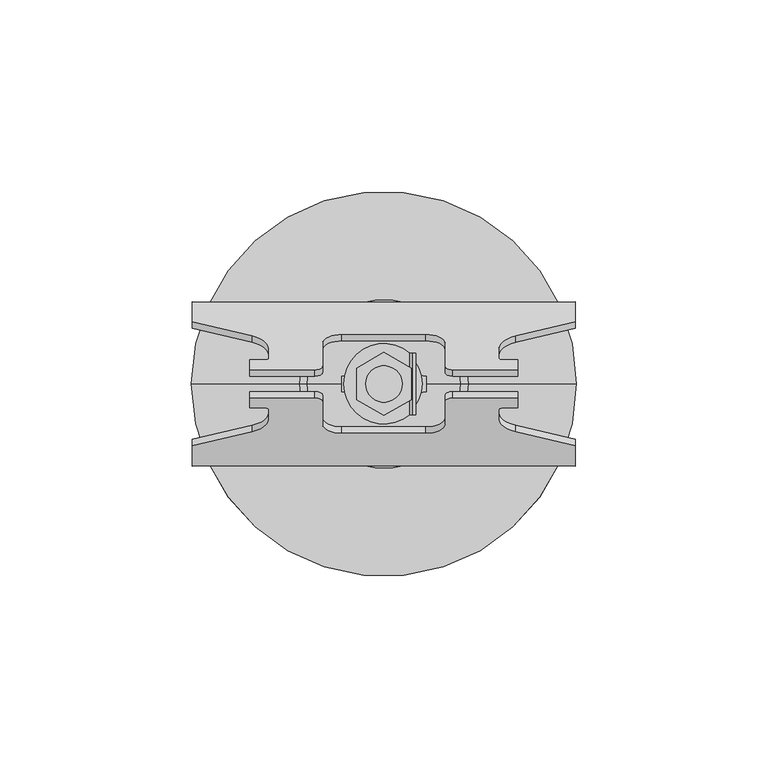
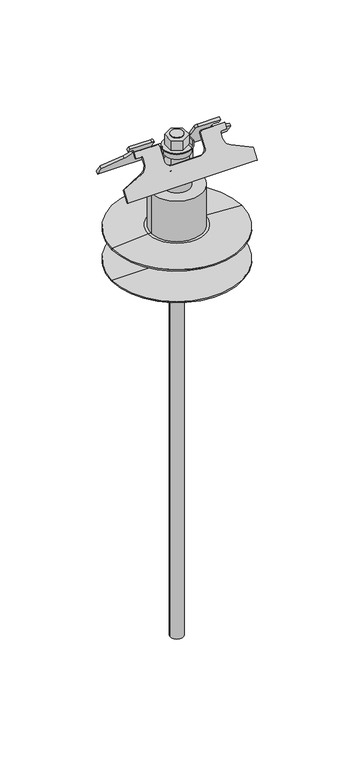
"""IFC4 building model written with IfcOpenShell, lengths in millimetres: proxy geometry, Kwiktrak Track Bracket (Bracket & Threaded Rod & Ceiling Plate) - ARJO - Revit2017 - REV0 : AH-Kwiktrak track bracket."""

from ifc_helpers import new_model, si_unit, point, frame, frame_2d, origin, origin_with_axes, origin_2d, place, context, project, spatial, polyline, circle_curve, ellipse_curve, trimmed, segment, composite_curve, outline, extrude, source, transform, mapped, element, save
from ifc_brep_helpers import plane_surface, cylinder_surface, revolved_surface, extruded_surface, advanced_brep


def specialty_equipment_32bf2d77(model_context):
    return source(origin(), model_context, "Body", "SolidModel", [
        extrude(outline(composite_curve([segment(trimmed(circle_curve(origin_2d(), 8.382), [point((-7.2434355, 4.2178864))], [point((7.2434355, 4.2178864))], False, "CARTESIAN"), True, "CONTINUOUS"), segment(trimmed(circle_curve(frame_2d((11.0457639, 6.432)), 4.4), [point((7.2434355, 4.2178864))], [point((11.0457639, 2.032))], True, "CARTESIAN"), True, "CONTINUOUS"), segment(polyline([(11.0457639, 2.032), (11.0457639, -2.032)]), True, "CONTINUOUS"), segment(trimmed(circle_curve(frame_2d((11.0457639, -6.432)), 4.4), [point((11.0457639, -2.032))], [point((7.2434355, -4.2178864))], True, "CARTESIAN"), True, "CONTINUOUS"), segment(trimmed(circle_curve(origin_2d(), 8.382), [point((7.2434355, -4.2178864))], [point((-7.2434355, -4.2178864))], False, "CARTESIAN"), True, "CONTINUOUS"), segment(trimmed(circle_curve(frame_2d((-11.0457639, -6.432)), 4.4), [point((-7.2434355, -4.2178864))], [point((-11.0457639, -2.032))], True, "CARTESIAN"), True, "CONTINUOUS"), segment(polyline([(-11.0457639, -2.032), (-11.0457639, 2.032)]), True, "CONTINUOUS"), segment(trimmed(circle_curve(frame_2d((-11.0457639, 6.432)), 4.4), [point((-11.0457639, 2.032))], [point((-7.2434355, 4.2178864))], True, "CARTESIAN"), True, "CONTINUOUS")], self_intersect=False)), frame((0.0, 0.0, 52.6432413), z_axis=(0.0, 0.0, 1.0), x_axis=(1.0, 0.0, 0.0)), (0.0, 0.0, 1.0), 10.7557441),
        advanced_brep(
        [(-10.0, 0.0, 41.8115), (10.0, 0.0, 41.8115), (10.0, 0.0, 35.8632413), (-10.0, 0.0, 35.8632413), (-8.0161454, 0.0, 42.3315717), (8.0161454, 0.0, 42.3315717), (9.4977725, 0.0, 42.3315717), (-9.4977725, 0.0, 42.3315717), (-7.5, 0.0, 52.6432413), (7.5, 0.0, 52.6432413), (7.5, 0.0, 42.9176284), (-7.5, 0.0, 42.9176284), (0.0, 0.0, 52.6432413), (0.0, 0.0, 35.8632413)],
        [
            (0, 1, circle_curve(frame((0.0, 0.0, 41.8115), z_axis=(0.0, 0.0, -1.0), x_axis=(1.0, 0.0, 0.0)), 10.0)),
            (1, 2),
            (2, 3, circle_curve(frame((0.0, 0.0, 35.8632413), z_axis=(0.0, 0.0, 1.0), x_axis=(1.0, 0.0, 0.0)), 10.0)),
            (3, 0),
            (1, 0, circle_curve(frame((0.0, 0.0, 41.8115), z_axis=(0.0, 0.0, -1.0), x_axis=(1.0, 0.0, 0.0)), 10.0)),
            (3, 2, circle_curve(frame((0.0, 0.0, 35.8632413), z_axis=(0.0, 0.0, 1.0), x_axis=(1.0, 0.0, 0.0)), 10.0)),
            (4, 5, circle_curve(frame((0.0, 0.0, 42.3315717), z_axis=(0.0, 0.0, -1.0), x_axis=(1.0, 0.0, 0.0)), 8.0161454)),
            (5, 6),
            (6, 7, circle_curve(frame((0.0, 0.0, 42.3315717), z_axis=(0.0, 0.0, 1.0), x_axis=(1.0, 0.0, 0.0)), 9.4977725)),
            (7, 4),
            (5, 4, circle_curve(frame((0.0, 0.0, 42.3315717), z_axis=(0.0, 0.0, -1.0), x_axis=(1.0, 0.0, 0.0)), 8.0161454)),
            (7, 6, circle_curve(frame((0.0, 0.0, 42.3315717), z_axis=(0.0, 0.0, 1.0), x_axis=(1.0, 0.0, 0.0)), 9.4977725)),
            (8, 9, circle_curve(frame((0.0, 0.0, 52.6432413), z_axis=(0.0, 0.0, -1.0), x_axis=(1.0, 0.0, 0.0)), 7.5)),
            (9, 10),
            (10, 11, circle_curve(frame((0.0, 0.0, 42.9176284), z_axis=(0.0, 0.0, 1.0), x_axis=(1.0, 0.0, 0.0)), 7.5)),
            (11, 8),
            (9, 8, circle_curve(frame((0.0, 0.0, 52.6432413), z_axis=(0.0, 0.0, -1.0), x_axis=(1.0, 0.0, 0.0)), 7.5)),
            (11, 10, circle_curve(frame((0.0, 0.0, 42.9176284), z_axis=(0.0, 0.0, 1.0), x_axis=(1.0, 0.0, 0.0)), 7.5)),
            (12, 9),
            (8, 12),
            (2, 13),
            (13, 3),
            (6, 1, circle_curve(frame((9.4796112, 0.0, 41.8115), z_axis=(0.0, 1.0, 0.0), x_axis=(1.0, 0.0, 0.0)), 0.5203888)),
            (0, 7, circle_curve(frame((-9.4796112, 0.0, 41.8115), z_axis=(0.0, 1.0, 0.0), x_axis=(-1.0, 0.0, 0.0)), 0.5203888)),
            (10, 5, circle_curve(frame((8.0346369, 0.0, 42.9176284), z_axis=(0.0, -1.0, 0.0), x_axis=(1.0, 0.0, 0.0)), 0.5346369)),
            (4, 11, circle_curve(frame((-8.0346369, 0.0, 42.9176284), z_axis=(0.0, -1.0, 0.0), x_axis=(-1.0, 0.0, 0.0)), 0.5346369)),
        ],
        [
            cylinder_surface(frame((0.0, 0.0, 1989.6192677), z_axis=(0.0, 0.0, 1.0), x_axis=(1.0, 0.0, 0.0)), 10.0),
            plane_surface(frame((0.0, 0.0, 42.3315717), z_axis=(0.0, 0.0, 1.0), x_axis=(1.0, 0.0, 0.0))),
            cylinder_surface(frame((0.0, 0.0, 1989.6192677), z_axis=(0.0, 0.0, 1.0), x_axis=(1.0, 0.0, 0.0)), 7.5),
            plane_surface(frame((0.0, 0.0, 52.6432413), z_axis=(0.0, 0.0, 1.0), x_axis=(1.0, 0.0, 0.0))),
            plane_surface(frame((0.0, 0.0, 35.8632413), z_axis=(0.0, 0.0, -1.0), x_axis=(1.0, 0.0, 0.0))),
            revolved_surface(trimmed(ellipse_curve(frame((9.4796112, 0.0, 41.8115), z_axis=(0.0, -1.0, 0.0), x_axis=(1.0, 0.0, 0.0)), 0.5203888, 0.5203888), [point((10.0, 0.0, 41.8115))], [point((9.4977725, 0.0, 42.3315717))], True, "CARTESIAN"), (0.0, 0.0, 1989.6192677), (0.0, 0.0, 1.0)),
            revolved_surface(trimmed(ellipse_curve(frame((8.0346369, 0.0, 42.9176284), z_axis=(0.0, 1.0, 0.0), x_axis=(1.0, 0.0, 0.0)), 0.5346369, 0.5346369), [point((8.0159784, 0.0, 42.3833171))], [point((7.5, 0.0, 42.9176284))], True, "CARTESIAN"), (0.0, 0.0, 1989.6192677), (0.0, 0.0, 1.0)),
        ],
        [
            (0, [[1, 2, 3, 4]]),
            (0, [[5, -4, 6, -2]]),
            (1, [[7, 8, 9, 10]]),
            (1, [[11, -10, 12, -8]]),
            (2, [[13, 14, 15, 16]]),
            (2, [[17, -16, 18, -14]]),
            (3, [[19, -13, 20]]),
            (3, [[-20, -17, -19]]),
            (4, [[-3, 21, 22]]),
            (4, [[-6, -22, -21]]),
            (5, [[-9, 23, -1, 24]]),
            (5, [[-12, -24, -5, -23]]),
            (6, [[-15, 25, -7, 26]]),
            (6, [[-18, -26, -11, -25]]),
        ],
    ),
        extrude(outline(composite_curve([segment(trimmed(circle_curve(frame_2d((69.2180114, 6.75)), 0.7447701), [point((69.2180114, 7.4947701))], [point((68.4732413, 6.75))], True, "CARTESIAN"), True, "CONTINUOUS"), segment(polyline([(68.4732413, 6.75), (67.6732413, 6.75)]), True, "CONTINUOUS"), segment(trimmed(circle_curve(frame_2d((69.2180114, 6.75)), 1.5447701), [point((67.6732413, 6.75))], [point((69.2180114, 8.2947701))], False, "CARTESIAN"), True, "CONTINUOUS"), segment(polyline([(69.2180114, 8.2947701), (73.9063719, 8.2947701), (73.9063719, 7.4947701), (69.2180114, 7.4947701)]), True, "CONTINUOUS")], self_intersect=False)), frame((0.0, -8.042854, 0.0), z_axis=(0.0, 1.0, 0.0), x_axis=(0.0, 0.0, 1.0)), (0.0, 0.0, 1.0), 16.0857079),
        extrude(outline(composite_curve([segment(trimmed(circle_curve(origin_2d(), 10.5), [point((6.75, -8.042854))], [point((6.75, 8.042854))], False, "CARTESIAN"), True, "CONTINUOUS"), segment(polyline([(6.75, 8.042854), (6.75, -8.042854)]), True, "CONTINUOUS")], self_intersect=False)), frame((0.0, 0.0, 67.6732413), z_axis=(0.0, 0.0, 1.0), x_axis=(1.0, 0.0, 0.0)), (0.0, 0.0, 1.0), 0.8),
        extrude(outline(composite_curve([segment(trimmed(circle_curve(origin_2d(), 10.0), [point((-10.0, 0.0))], [point((10.0, 0.0))], False, "CARTESIAN"), True, "CONTINUOUS"), segment(trimmed(circle_curve(origin_2d(), 10.0), [point((10.0, 0.0))], [point((-10.0, 0.0))], False, "CARTESIAN"), True, "CONTINUOUS")], self_intersect=False)), frame((0.0, 0.0, 63.3520872), z_axis=(0.0, 0.0, 1.0), x_axis=(1.0, 0.0, 0.0)), (0.0, 0.0, 1.0), 4.321154),
        advanced_brep(
        [(-30.0, 6.7435928, 72.2514851), (-31.0, 6.275563, 72.927406), (-35.0, 6.275563, 72.927406), (-35.0, 3.7095132, 76.6332526), (-18.0, 3.7095132, 76.6332526), (-16.0, 4.6455727, 75.2814109), (-16.0, 10.5656792, 66.7316914), (-11.0, 12.9058281, 63.3520872), (11.0, 12.9058281, 63.3520872), (16.0, 10.5656792, 66.7316914), (16.0, 4.6455727, 75.2814109), (18.0, 3.7095132, 76.6332526), (35.0, 3.7095132, 76.6332526), (35.0, 6.275563, 72.927406), (31.0, 6.275563, 72.927406), (30.0, 6.7435928, 72.2514851), (30.0, 9.1615899, 68.7594538), (34.4018702, 12.5057424, 63.9298843), (50.0, 16.1820364, 58.6206415), (50.0, 21.4664808, 50.9889346), (48.0, 21.3494734, 51.1579148), (-48.0, 21.3494734, 51.1579148), (-50.0, 21.4664808, 50.9889346), (-50.0, 16.1820364, 58.6206415), (-34.4018702, 12.5057424, 63.9298843), (-30.0, 9.1615899, 68.7594538), (-30.0, 5.0713515, 71.0935704), (-30.0, 7.4893486, 67.6015391), (-34.4018702, 10.8335011, 62.7719695), (-50.0, 14.5097951, 57.4627267), (-50.0, 19.7942395, 49.8310198), (-48.0, 19.6772321, 50.0), (48.0, 19.6772321, 50.0), (50.0, 19.7942395, 49.8310198), (50.0, 14.5097951, 57.4627267), (34.4018702, 10.8335011, 62.7719695), (30.0, 7.4893486, 67.6015391), (30.0, 5.0713515, 71.0935704), (31.0, 4.6033217, 71.7694912), (35.0, 4.6033217, 71.7694912), (35.0, 2.0372719, 75.4753378), (18.0, 2.0372719, 75.4753378), (16.0, 2.9733314, 74.1234961), (16.0, 8.8934379, 65.5737766), (11.0, 11.2335867, 62.1941725), (-11.0, 11.2335867, 62.1941725), (-16.0, 8.8934379, 65.5737766), (-16.0, 2.9733314, 74.1234961), (-18.0, 2.0372719, 75.4753378), (-35.0, 2.0372719, 75.4753378), (-35.0, 4.6033217, 71.7694912), (-31.0, 4.6033217, 71.7694912)],
        [
            (0, 1, ellipse_curve(frame((-31.0, 6.7435928, 72.2514851), z_axis=(0.0, -0.8221440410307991, -0.5692795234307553), x_axis=(-1.0, 0.0, 0.0)), 1.0, 0.822144)),
            (1, 2),
            (2, 3),
            (3, 4),
            (4, 5, ellipse_curve(frame((-18.0, 4.6455727, 75.2814109), z_axis=(0.0, 0.8221440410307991, 0.5692795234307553), x_axis=(1.0, 0.0, 0.0)), 2.0, 1.6442881)),
            (5, 6),
            (6, 7, ellipse_curve(frame((-11.0, 10.5656792, 66.7316914), z_axis=(0.0, -0.8221440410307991, -0.5692795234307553), x_axis=(1.0, 0.0, 0.0)), 5.0, 4.1107202)),
            (7, 8),
            (8, 9, ellipse_curve(frame((11.0, 10.5656792, 66.7316914), z_axis=(0.0, -0.8221440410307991, -0.5692795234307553), x_axis=(1.0, 0.0, 0.0)), 5.0, 4.1107202)),
            (9, 10),
            (10, 11, ellipse_curve(frame((18.0, 4.6455727, 75.2814109), z_axis=(0.0, 0.8221440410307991, 0.5692795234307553), x_axis=(1.0, 0.0, 0.0)), 2.0, 1.6442881)),
            (11, 12),
            (12, 13),
            (13, 14),
            (14, 15, ellipse_curve(frame((31.0, 6.7435928, 72.2514851), z_axis=(0.0, -0.8221440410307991, -0.5692795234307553), x_axis=(-1.0, 0.0, 0.0)), 1.0, 0.822144)),
            (15, 16),
            (16, 17, ellipse_curve(frame((38.0, 9.1615899, 68.7594538), z_axis=(0.0, -0.8221440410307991, -0.5692795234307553), x_axis=(-1.0, 0.0, 0.0)), 8.0, 6.5771523)),
            (17, 18),
            (18, 19),
            (19, 20),
            (20, 21),
            (21, 22),
            (22, 23),
            (23, 24),
            (24, 25, ellipse_curve(frame((-38.0, 9.1615899, 68.7594538), z_axis=(0.0, -0.8221440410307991, -0.5692795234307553), x_axis=(-1.0, 0.0, 0.0)), 8.0, 6.5771523)),
            (25, 0),
            (26, 27),
            (27, 28, ellipse_curve(frame((-38.0, 7.4893486, 67.6015391), z_axis=(0.0, 0.8221440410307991, 0.5692795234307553), x_axis=(-1.0, 0.0, 0.0)), 8.0, 6.5771523)),
            (28, 29),
            (29, 30),
            (30, 31),
            (31, 32),
            (32, 33),
            (33, 34),
            (34, 35),
            (35, 36, ellipse_curve(frame((38.0, 7.4893486, 67.6015391), z_axis=(0.0, 0.8221440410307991, 0.5692795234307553), x_axis=(-1.0, 0.0, 0.0)), 8.0, 6.5771523)),
            (36, 37),
            (37, 38, ellipse_curve(frame((31.0, 5.0713515, 71.0935704), z_axis=(0.0, 0.8221440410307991, 0.5692795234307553), x_axis=(-1.0, 0.0, 0.0)), 1.0, 0.822144)),
            (38, 39),
            (39, 40),
            (40, 41),
            (41, 42, ellipse_curve(frame((18.0, 2.9733314, 74.1234961), z_axis=(0.0, -0.8221440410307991, -0.5692795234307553), x_axis=(1.0, 0.0, 0.0)), 2.0, 1.6442881)),
            (42, 43),
            (43, 44, ellipse_curve(frame((11.0, 8.8934379, 65.5737766), z_axis=(0.0, 0.8221440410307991, 0.5692795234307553), x_axis=(1.0, 0.0, 0.0)), 5.0, 4.1107202)),
            (44, 45),
            (45, 46, ellipse_curve(frame((-11.0, 8.8934379, 65.5737766), z_axis=(0.0, 0.8221440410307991, 0.5692795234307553), x_axis=(1.0, 0.0, 0.0)), 5.0, 4.1107202)),
            (46, 47),
            (47, 48, ellipse_curve(frame((-18.0, 2.9733314, 74.1234961), z_axis=(0.0, -0.8221440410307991, -0.5692795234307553), x_axis=(1.0, 0.0, 0.0)), 2.0, 1.6442881)),
            (48, 49),
            (49, 50),
            (50, 51),
            (51, 26, ellipse_curve(frame((-31.0, 5.0713515, 71.0935704), z_axis=(0.0, 0.8221440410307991, 0.5692795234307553), x_axis=(-1.0, 0.0, 0.0)), 1.0, 0.822144)),
            (25, 27),
            (26, 0),
            (24, 28),
            (23, 29),
            (22, 30),
            (21, 31),
            (20, 32),
            (19, 33),
            (18, 34),
            (17, 35),
            (16, 36),
            (15, 37),
            (14, 38),
            (13, 39),
            (12, 40),
            (11, 41),
            (10, 42),
            (9, 43),
            (8, 44),
            (7, 45),
            (6, 46),
            (5, 47),
            (4, 48),
            (3, 49),
            (2, 50),
            (1, 51),
        ],
        [
            plane_surface(frame((-32.0, 6.7435928, 72.2514851), z_axis=(0.0, 0.8221440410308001, 0.5692795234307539), x_axis=(0.0, 0.5692795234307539, -0.8221440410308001))),
            plane_surface(frame((-32.0, 5.0713515, 71.0935704), z_axis=(0.0, -0.8221440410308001, -0.5692795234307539), x_axis=(0.0, -0.5692795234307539, 0.8221440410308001))),
            plane_surface(frame((-30.0, 9.1615899, 68.7594538), z_axis=(-1.0, 0.0, 0.0), x_axis=(0.0, -0.8221440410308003, -0.5692795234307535))),
            extruded_surface(trimmed(ellipse_curve(frame((-38.0, 5.8171073, 66.4436243), z_axis=(0.0, -0.8221440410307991, -0.5692795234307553), x_axis=(-1.0, 0.0, 0.0)), 8.0, 6.5771523), [point((-34.4018702, 9.1612598, 61.6140547))], [point((-30.0, 5.8171073, 66.4436243))], True, "CARTESIAN"), (0.0, 1.6722412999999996, 1.1579148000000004), 2.034000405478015),
            plane_surface(frame((-50.0, 16.1820364, 58.6206415), z_axis=(-0.38252387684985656, -0.5259833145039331, 0.7596163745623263), x_axis=(0.0, -0.8221440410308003, -0.5692795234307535))),
            plane_surface(frame((-50.0, 21.4664808, 50.9889346), z_axis=(-1.0, 0.0, 0.0), x_axis=(0.0, -0.8221440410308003, -0.5692795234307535))),
            plane_surface(frame((-48.0, 21.3494734, 51.1579148), z_axis=(0.10222958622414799, 0.5662969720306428, -0.8178366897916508), x_axis=(0.0, -0.8221440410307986, -0.5692795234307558))),
            plane_surface(frame((48.0, 21.3494734, 51.1579148), z_axis=(0.0, 0.5692795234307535, -0.8221440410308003), x_axis=(0.0, -0.8221440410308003, -0.5692795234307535))),
            plane_surface(frame((50.0, 21.4664808, 50.9889346), z_axis=(-0.10222958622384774, 0.5662969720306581, -0.8178366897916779), x_axis=(0.0, -0.8221440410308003, -0.5692795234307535))),
            plane_surface(frame((50.0, 16.1820364, 58.6206415), z_axis=(1.0, 0.0, 0.0), x_axis=(0.0, -0.822144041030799, -0.5692795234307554))),
            plane_surface(frame((34.4018702, 12.5057424, 63.9298843), z_axis=(0.3825238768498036, -0.5259833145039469, 0.7596163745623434), x_axis=(0.0, -0.8221440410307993, -0.5692795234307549))),
            extruded_surface(trimmed(ellipse_curve(frame((38.0, 5.8171073, 66.4436243), z_axis=(0.0, -0.8221440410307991, -0.5692795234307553), x_axis=(-1.0, 0.0, 0.0)), 8.0, 6.5771523), [point((30.0, 5.8171073, 66.4436243))], [point((34.4018702, 9.1612598, 61.6140547))], True, "CARTESIAN"), (0.0, 1.6722412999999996, 1.1579148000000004), 2.034000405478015),
            plane_surface(frame((30.0, 6.7435928, 72.2514851), z_axis=(1.0, 0.0, 0.0), x_axis=(0.0, -0.8221440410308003, -0.5692795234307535))),
            extruded_surface(trimmed(ellipse_curve(frame((31.0, 3.3991102, 69.9356556), z_axis=(0.0, -0.8221440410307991, -0.5692795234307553), x_axis=(-1.0, 0.0, 0.0)), 1.0, 0.822144), [point((31.0, 2.9310804, 70.6115764))], [point((30.0, 3.3991102, 69.9356556))], True, "CARTESIAN"), (0.0, 1.6722412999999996, 1.1579148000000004), 2.034000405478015),
            plane_surface(frame((35.0, 6.275563, 72.927406), z_axis=(0.0, 0.5692795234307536, -0.8221440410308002), x_axis=(0.0, -0.8221440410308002, -0.5692795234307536))),
            plane_surface(frame((35.0, 3.7095132, 76.6332526), z_axis=(1.0000000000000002, 0.0, 0.0), x_axis=(0.0, -0.8221440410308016, -0.5692795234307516))),
            plane_surface(frame((18.0, 3.7095132, 76.6332526), z_axis=(0.0, -0.5692795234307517, 0.8221440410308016), x_axis=(0.0, -0.8221440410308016, -0.5692795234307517))),
            extruded_surface(trimmed(ellipse_curve(frame((18.0, 1.3010901, 72.9655813), z_axis=(0.0, 0.8221440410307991, 0.5692795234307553), x_axis=(1.0, 0.0, 0.0)), 2.0, 1.6442881), [point((16.0, 1.3010901, 72.9655813))], [point((18.0, 0.3650306, 74.317423))], True, "CARTESIAN"), (0.0, 1.6722413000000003, 1.1579148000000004), 2.0340004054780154),
            plane_surface(frame((16.0, 10.5656792, 66.7316914), z_axis=(-1.0, 0.0, 0.0), x_axis=(0.0, -0.822144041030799, -0.5692795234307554))),
            extruded_surface(trimmed(ellipse_curve(frame((11.0, 7.2211966, 64.4158618), z_axis=(0.0, -0.8221440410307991, -0.5692795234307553), x_axis=(1.0, 0.0, 0.0)), 5.0, 4.1107202), [point((11.0, 9.5613454, 61.0362577))], [point((16.0, 7.2211966, 64.4158618))], True, "CARTESIAN"), (0.0, 1.6722413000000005, 1.1579148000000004), 2.034000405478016),
            plane_surface(frame((-11.0, 12.9058281, 63.3520872), z_axis=(0.0, -0.5692795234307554, 0.822144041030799), x_axis=(0.0, -0.822144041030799, -0.5692795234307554))),
            extruded_surface(trimmed(ellipse_curve(frame((-11.0, 7.2211966, 64.4158618), z_axis=(0.0, -0.8221440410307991, -0.5692795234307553), x_axis=(1.0, 0.0, 0.0)), 5.0, 4.1107202), [point((-16.0, 7.2211966, 64.4158618))], [point((-11.0, 9.5613454, 61.0362577))], True, "CARTESIAN"), (0.0, 1.6722413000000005, 1.1579148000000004), 2.034000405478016),
            plane_surface(frame((-16.0, 4.6455727, 75.2814109), z_axis=(1.0000000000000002, 0.0, 0.0), x_axis=(0.0, -0.8221440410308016, -0.5692795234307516))),
            extruded_surface(trimmed(ellipse_curve(frame((-18.0, 1.3010901, 72.9655813), z_axis=(0.0, 0.8221440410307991, 0.5692795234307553), x_axis=(1.0, 0.0, 0.0)), 2.0, 1.6442881), [point((-18.0, 0.3650306, 74.317423))], [point((-16.0, 1.3010901, 72.9655813))], True, "CARTESIAN"), (0.0, 1.6722413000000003, 1.1579148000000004), 2.0340004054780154),
            plane_surface(frame((-35.0, 3.7095132, 76.6332526), z_axis=(0.0, -0.5692795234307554, 0.822144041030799), x_axis=(0.0, -0.822144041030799, -0.5692795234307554))),
            plane_surface(frame((-35.0, 6.275563, 72.927406), z_axis=(-1.0, 0.0, 0.0), x_axis=(0.0, -0.8221440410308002, -0.5692795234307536))),
            plane_surface(frame((-31.0, 6.275563, 72.927406), z_axis=(0.0, 0.5692795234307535, -0.8221440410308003), x_axis=(0.0, -0.8221440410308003, -0.5692795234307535))),
            extruded_surface(trimmed(ellipse_curve(frame((-31.0, 3.3991102, 69.9356556), z_axis=(0.0, -0.8221440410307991, -0.5692795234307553), x_axis=(-1.0, 0.0, 0.0)), 1.0, 0.822144), [point((-30.0, 3.3991102, 69.9356556))], [point((-31.0, 2.9310804, 70.6115764))], True, "CARTESIAN"), (0.0, 1.6722412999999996, 1.1579148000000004), 2.034000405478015),
        ],
        [
            (0, [[1, 2, 3, 4, 5, 6, 7, 8, 9, 10, 11, 12, 13, 14, 15, 16, 17, 18, 19, 20, 21, 22, 23, 24, 25, 26]]),
            (1, [[27, 28, 29, 30, 31, 32, 33, 34, 35, 36, 37, 38, 39, 40, 41, 42, 43, 44, 45, 46, 47, 48, 49, 50, 51, 52]]),
            (2, [[-26, 53, -27, 54]]),
            (3, [[-25, 55, -28, -53]]),
            (4, [[-24, 56, -29, -55]]),
            (5, [[-23, 57, -30, -56]]),
            (6, [[-22, 58, -31, -57]]),
            (7, [[-21, 59, -32, -58]]),
            (8, [[-20, 60, -33, -59]]),
            (9, [[-19, 61, -34, -60]]),
            (10, [[-18, 62, -35, -61]]),
            (11, [[-17, 63, -36, -62]]),
            (12, [[-16, 64, -37, -63]]),
            (13, [[-15, 65, -38, -64]]),
            (14, [[-14, 66, -39, -65]]),
            (15, [[-13, 67, -40, -66]]),
            (16, [[-12, 68, -41, -67]]),
            (17, [[-11, 69, -42, -68]]),
            (18, [[-10, 70, -43, -69]]),
            (19, [[-9, 71, -44, -70]]),
            (20, [[-8, 72, -45, -71]]),
            (21, [[-7, 73, -46, -72]]),
            (22, [[-6, 74, -47, -73]]),
            (23, [[-5, 75, -48, -74]]),
            (24, [[-4, 76, -49, -75]]),
            (25, [[-3, 77, -50, -76]]),
            (26, [[-2, 78, -51, -77]]),
            (27, [[-1, -54, -52, -78]]),
        ],
    ),
        advanced_brep(
        [(-30.0, -6.7435928, 72.2514851), (-30.0, -9.1615899, 68.7594538), (-34.4018702, -12.5057424, 63.9298843), (-50.0, -16.1820364, 58.6206415), (-50.0, -21.4664808, 50.9889346), (-48.0, -21.3494734, 51.1579148), (48.0, -21.3494734, 51.1579148), (50.0, -21.4664808, 50.9889346), (50.0, -16.1820364, 58.6206415), (34.4018702, -12.5057424, 63.9298843), (30.0, -9.1615899, 68.7594538), (30.0, -6.7435928, 72.2514851), (31.0, -6.275563, 72.927406), (35.0, -6.275563, 72.927406), (35.0, -3.7095132, 76.6332526), (18.0, -3.7095132, 76.6332526), (16.0, -4.6455727, 75.2814109), (16.0, -10.5656792, 66.7316914), (11.0, -12.9058281, 63.3520872), (-11.0, -12.9058281, 63.3520872), (-16.0, -10.5656792, 66.7316914), (-16.0, -4.6455727, 75.2814109), (-18.0, -3.7095132, 76.6332526), (-35.0, -3.7095132, 76.6332526), (-35.0, -6.275563, 72.927406), (-31.0, -6.275563, 72.927406), (-30.0, -5.0713515, 71.0935704), (-31.0, -4.6033217, 71.7694912), (-35.0, -4.6033217, 71.7694912), (-35.0, -2.0372719, 75.4753378), (-18.0, -2.0372719, 75.4753378), (-16.0, -2.9733314, 74.1234961), (-16.0, -8.8934379, 65.5737766), (-11.0, -11.2335867, 62.1941725), (11.0, -11.2335867, 62.1941725), (16.0, -8.8934379, 65.5737766), (16.0, -2.9733314, 74.1234961), (18.0, -2.0372719, 75.4753378), (35.0, -2.0372719, 75.4753378), (35.0, -4.6033217, 71.7694912), (31.0, -4.6033217, 71.7694912), (30.0, -5.0713515, 71.0935704), (30.0, -7.4893486, 67.6015391), (34.4018702, -10.8335011, 62.7719695), (50.0, -14.5097951, 57.4627267), (50.0, -19.7942395, 49.8310198), (48.0, -19.6772321, 50.0), (-48.0, -19.6772321, 50.0), (-50.0, -19.7942395, 49.8310198), (-50.0, -14.5097951, 57.4627267), (-34.4018702, -10.8335011, 62.7719695), (-30.0, -7.4893486, 67.6015391)],
        [
            (0, 1),
            (1, 2, ellipse_curve(frame((-38.0, -9.1615899, 68.7594538), z_axis=(0.0, 0.8221440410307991, -0.5692795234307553), x_axis=(-1.0, 0.0, 0.0)), 8.0, 6.5771523)),
            (2, 3),
            (3, 4),
            (4, 5),
            (5, 6),
            (6, 7),
            (7, 8),
            (8, 9),
            (9, 10, ellipse_curve(frame((38.0, -9.1615899, 68.7594538), z_axis=(0.0, 0.8221440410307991, -0.5692795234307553), x_axis=(-1.0, 0.0, 0.0)), 8.0, 6.5771523)),
            (10, 11),
            (11, 12, ellipse_curve(frame((31.0, -6.7435928, 72.2514851), z_axis=(0.0, 0.8221440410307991, -0.5692795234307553), x_axis=(-1.0, 0.0, 0.0)), 1.0, 0.822144)),
            (12, 13),
            (13, 14),
            (14, 15),
            (15, 16, ellipse_curve(frame((18.0, -4.6455727, 75.2814109), z_axis=(0.0, -0.8221440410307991, 0.5692795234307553), x_axis=(1.0, 0.0, 0.0)), 2.0, 1.6442881)),
            (16, 17),
            (17, 18, ellipse_curve(frame((11.0, -10.5656792, 66.7316914), z_axis=(0.0, 0.8221440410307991, -0.5692795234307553), x_axis=(1.0, 0.0, 0.0)), 5.0, 4.1107202)),
            (18, 19),
            (19, 20, ellipse_curve(frame((-11.0, -10.5656792, 66.7316914), z_axis=(0.0, 0.8221440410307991, -0.5692795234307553), x_axis=(1.0, 0.0, 0.0)), 5.0, 4.1107202)),
            (20, 21),
            (21, 22, ellipse_curve(frame((-18.0, -4.6455727, 75.2814109), z_axis=(0.0, -0.8221440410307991, 0.5692795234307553), x_axis=(1.0, 0.0, 0.0)), 2.0, 1.6442881)),
            (22, 23),
            (23, 24),
            (24, 25),
            (25, 0, ellipse_curve(frame((-31.0, -6.7435928, 72.2514851), z_axis=(0.0, 0.8221440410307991, -0.5692795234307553), x_axis=(-1.0, 0.0, 0.0)), 1.0, 0.822144)),
            (26, 27, ellipse_curve(frame((-31.0, -5.0713515, 71.0935704), z_axis=(0.0, -0.8221440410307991, 0.5692795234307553), x_axis=(-1.0, 0.0, 0.0)), 1.0, 0.822144)),
            (27, 28),
            (28, 29),
            (29, 30),
            (30, 31, ellipse_curve(frame((-18.0, -2.9733314, 74.1234961), z_axis=(0.0, 0.8221440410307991, -0.5692795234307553), x_axis=(1.0, 0.0, 0.0)), 2.0, 1.6442881)),
            (31, 32),
            (32, 33, ellipse_curve(frame((-11.0, -8.8934379, 65.5737766), z_axis=(0.0, -0.8221440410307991, 0.5692795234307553), x_axis=(1.0, 0.0, 0.0)), 5.0, 4.1107202)),
            (33, 34),
            (34, 35, ellipse_curve(frame((11.0, -8.8934379, 65.5737766), z_axis=(0.0, -0.8221440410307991, 0.5692795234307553), x_axis=(1.0, 0.0, 0.0)), 5.0, 4.1107202)),
            (35, 36),
            (36, 37, ellipse_curve(frame((18.0, -2.9733314, 74.1234961), z_axis=(0.0, 0.8221440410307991, -0.5692795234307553), x_axis=(1.0, 0.0, 0.0)), 2.0, 1.6442881)),
            (37, 38),
            (38, 39),
            (39, 40),
            (40, 41, ellipse_curve(frame((31.0, -5.0713515, 71.0935704), z_axis=(0.0, -0.8221440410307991, 0.5692795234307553), x_axis=(-1.0, 0.0, 0.0)), 1.0, 0.822144)),
            (41, 42),
            (42, 43, ellipse_curve(frame((38.0, -7.4893486, 67.6015391), z_axis=(0.0, -0.8221440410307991, 0.5692795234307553), x_axis=(-1.0, 0.0, 0.0)), 8.0, 6.5771523)),
            (43, 44),
            (44, 45),
            (45, 46),
            (46, 47),
            (47, 48),
            (48, 49),
            (49, 50),
            (50, 51, ellipse_curve(frame((-38.0, -7.4893486, 67.6015391), z_axis=(0.0, -0.8221440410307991, 0.5692795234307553), x_axis=(-1.0, 0.0, 0.0)), 8.0, 6.5771523)),
            (51, 26),
            (0, 26),
            (51, 1),
            (50, 2),
            (49, 3),
            (48, 4),
            (47, 5),
            (46, 6),
            (45, 7),
            (44, 8),
            (43, 9),
            (42, 10),
            (41, 11),
            (40, 12),
            (39, 13),
            (38, 14),
            (37, 15),
            (36, 16),
            (35, 17),
            (34, 18),
            (33, 19),
            (32, 20),
            (31, 21),
            (30, 22),
            (29, 23),
            (28, 24),
            (27, 25),
        ],
        [
            plane_surface(frame((-30.0, -13.9975841, 61.7753912), z_axis=(0.0, -0.8221440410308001, 0.5692795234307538), x_axis=(0.0, -0.5692795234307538, -0.8221440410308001))),
            plane_surface(frame((-30.0, -12.3253428, 60.6174765), z_axis=(0.0, 0.8221440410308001, -0.5692795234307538), x_axis=(0.0, 0.5692795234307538, 0.8221440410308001))),
            plane_surface(frame((-30.0, -6.7435928, 72.2514851), z_axis=(-1.0, 0.0, 0.0), x_axis=(0.0, 0.8221440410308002, -0.5692795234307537))),
            extruded_surface(trimmed(ellipse_curve(frame((-38.0, -5.8171073, 66.4436243), z_axis=(0.0, 0.8221440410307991, -0.5692795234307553), x_axis=(-1.0, 0.0, 0.0)), 8.0, 6.5771523), [point((-30.0, -5.8171073, 66.4436243))], [point((-34.4018702, -9.1612598, 61.6140547))], True, "CARTESIAN"), (0.0, -1.6722412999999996, 1.1579148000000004), 2.034000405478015),
            plane_surface(frame((-34.4018702, -12.5057424, 63.9298843), z_axis=(-0.38252387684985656, 0.5259833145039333, 0.7596163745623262), x_axis=(0.0, 0.8221440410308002, -0.5692795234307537))),
            plane_surface(frame((-50.0, -16.1820364, 58.6206415), z_axis=(-1.0, 0.0, 0.0), x_axis=(0.0, 0.8221440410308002, -0.5692795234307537))),
            plane_surface(frame((-50.0, -21.4664808, 50.9889346), z_axis=(0.10222958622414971, -0.5662969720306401, -0.8178366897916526), x_axis=(0.0, 0.8221440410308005, -0.5692795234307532))),
            plane_surface(frame((-48.0, -21.3494734, 51.1579148), z_axis=(0.0, -0.569279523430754, -0.8221440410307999), x_axis=(0.0, 0.8221440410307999, -0.569279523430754))),
            plane_surface(frame((48.0, -21.3494734, 51.1579148), z_axis=(-0.10222958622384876, -0.56629697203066, -0.8178366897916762), x_axis=(0.0, 0.8221440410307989, -0.5692795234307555))),
            plane_surface(frame((50.0, -21.4664808, 50.9889346), z_axis=(1.0, 0.0, 0.0), x_axis=(0.0, 0.8221440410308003, -0.5692795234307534))),
            plane_surface(frame((50.0, -16.1820364, 58.6206415), z_axis=(0.3825238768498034, 0.5259833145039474, 0.7596163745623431), x_axis=(0.0, 0.8221440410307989, -0.5692795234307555))),
            extruded_surface(trimmed(ellipse_curve(frame((38.0, -5.8171073, 66.4436243), z_axis=(0.0, 0.8221440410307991, -0.5692795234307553), x_axis=(-1.0, 0.0, 0.0)), 8.0, 6.5771523), [point((34.4018702, -9.1612598, 61.6140547))], [point((30.0, -5.8171073, 66.4436243))], True, "CARTESIAN"), (0.0, -1.6722412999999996, 1.1579148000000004), 2.034000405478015),
            plane_surface(frame((30.0, -9.1615899, 68.7594538), z_axis=(1.0, 0.0, 0.0), x_axis=(0.0, 0.8221440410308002, -0.5692795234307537))),
            extruded_surface(trimmed(ellipse_curve(frame((31.0, -3.3991102, 69.9356556), z_axis=(0.0, 0.8221440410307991, -0.5692795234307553), x_axis=(-1.0, 0.0, 0.0)), 1.0, 0.822144), [point((30.0, -3.3991102, 69.9356556))], [point((31.0, -2.9310804, 70.6115764))], True, "CARTESIAN"), (0.0, -1.6722412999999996, 1.1579148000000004), 2.034000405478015),
            plane_surface(frame((31.0, -6.275563, 72.927406), z_axis=(0.0, -0.5692795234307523, -0.8221440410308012), x_axis=(0.0, 0.8221440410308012, -0.5692795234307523))),
            plane_surface(frame((35.0, -6.275563, 72.927406), z_axis=(1.0, 0.0, 0.0), x_axis=(0.0, 0.8221440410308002, -0.5692795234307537))),
            plane_surface(frame((35.0, -3.7095132, 76.6332526), z_axis=(0.0, 0.5692795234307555, 0.8221440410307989), x_axis=(0.0, 0.8221440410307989, -0.5692795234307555))),
            extruded_surface(trimmed(ellipse_curve(frame((18.0, -1.3010901, 72.9655813), z_axis=(0.0, -0.8221440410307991, 0.5692795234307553), x_axis=(1.0, 0.0, 0.0)), 2.0, 1.6442881), [point((18.0, -0.3650306, 74.317423))], [point((16.0, -1.3010901, 72.9655813))], True, "CARTESIAN"), (0.0, -1.6722413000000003, 1.1579148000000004), 2.0340004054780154),
            plane_surface(frame((16.0, -4.6455727, 75.2814109), z_axis=(-1.0000000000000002, 0.0, 0.0), x_axis=(0.0, 0.8221440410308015, -0.5692795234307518))),
            extruded_surface(trimmed(ellipse_curve(frame((11.0, -7.2211966, 64.4158618), z_axis=(0.0, 0.8221440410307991, -0.5692795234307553), x_axis=(1.0, 0.0, 0.0)), 5.0, 4.1107202), [point((16.0, -7.2211966, 64.4158618))], [point((11.0, -9.5613454, 61.0362577))], True, "CARTESIAN"), (0.0, -1.6722413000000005, 1.1579148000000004), 2.034000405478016),
            plane_surface(frame((11.0, -12.9058281, 63.3520872), z_axis=(0.0, 0.5692795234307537, 0.8221440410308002), x_axis=(0.0, 0.8221440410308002, -0.5692795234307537))),
            extruded_surface(trimmed(ellipse_curve(frame((-11.0, -7.2211966, 64.4158618), z_axis=(0.0, 0.8221440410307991, -0.5692795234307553), x_axis=(1.0, 0.0, 0.0)), 5.0, 4.1107202), [point((-11.0, -9.5613454, 61.0362577))], [point((-16.0, -7.2211966, 64.4158618))], True, "CARTESIAN"), (0.0, -1.6722413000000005, 1.1579148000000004), 2.034000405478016),
            plane_surface(frame((-16.0, -10.5656792, 66.7316914), z_axis=(1.0, 0.0, 0.0), x_axis=(0.0, 0.8221440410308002, -0.5692795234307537))),
            extruded_surface(trimmed(ellipse_curve(frame((-18.0, -1.3010901, 72.9655813), z_axis=(0.0, -0.8221440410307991, 0.5692795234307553), x_axis=(1.0, 0.0, 0.0)), 2.0, 1.6442881), [point((-16.0, -1.3010901, 72.9655813))], [point((-18.0, -0.3650306, 74.317423))], True, "CARTESIAN"), (0.0, -1.6722413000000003, 1.1579148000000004), 2.0340004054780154),
            plane_surface(frame((-18.0, -3.7095132, 76.6332526), z_axis=(0.0, 0.5692795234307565, 0.8221440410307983), x_axis=(0.0, 0.8221440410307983, -0.5692795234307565))),
            plane_surface(frame((-35.0, -3.7095132, 76.6332526), z_axis=(-1.0, 0.0, 0.0), x_axis=(0.0, 0.8221440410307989, -0.5692795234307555))),
            plane_surface(frame((-35.0, -6.275563, 72.927406), z_axis=(0.0, -0.569279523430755, -0.8221440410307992), x_axis=(0.0, 0.8221440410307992, -0.569279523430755))),
            extruded_surface(trimmed(ellipse_curve(frame((-31.0, -3.3991102, 69.9356556), z_axis=(0.0, 0.8221440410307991, -0.5692795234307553), x_axis=(-1.0, 0.0, 0.0)), 1.0, 0.822144), [point((-31.0, -2.9310804, 70.6115764))], [point((-30.0, -3.3991102, 69.9356556))], True, "CARTESIAN"), (0.0, -1.6722412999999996, 1.1579148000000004), 2.034000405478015),
        ],
        [
            (0, [[1, 2, 3, 4, 5, 6, 7, 8, 9, 10, 11, 12, 13, 14, 15, 16, 17, 18, 19, 20, 21, 22, 23, 24, 25, 26]]),
            (1, [[27, 28, 29, 30, 31, 32, 33, 34, 35, 36, 37, 38, 39, 40, 41, 42, 43, 44, 45, 46, 47, 48, 49, 50, 51, 52]]),
            (2, [[-1, 53, -52, 54]]),
            (3, [[-2, -54, -51, 55]]),
            (4, [[-3, -55, -50, 56]]),
            (5, [[-4, -56, -49, 57]]),
            (6, [[-5, -57, -48, 58]]),
            (7, [[-6, -58, -47, 59]]),
            (8, [[-7, -59, -46, 60]]),
            (9, [[-8, -60, -45, 61]]),
            (10, [[-9, -61, -44, 62]]),
            (11, [[-10, -62, -43, 63]]),
            (12, [[-11, -63, -42, 64]]),
            (13, [[-12, -64, -41, 65]]),
            (14, [[-13, -65, -40, 66]]),
            (15, [[-14, -66, -39, 67]]),
            (16, [[-15, -67, -38, 68]]),
            (17, [[-16, -68, -37, 69]]),
            (18, [[-17, -69, -36, 70]]),
            (19, [[-18, -70, -35, 71]]),
            (20, [[-19, -71, -34, 72]]),
            (21, [[-20, -72, -33, 73]]),
            (22, [[-21, -73, -32, 74]]),
            (23, [[-22, -74, -31, 75]]),
            (24, [[-23, -75, -30, 76]]),
            (25, [[-24, -76, -29, 77]]),
            (26, [[-25, -77, -28, 78]]),
            (27, [[-26, -78, -27, -53]]),
        ],
    ),
        extrude(outline(polyline([(-7.14375, 4.124446), (0.0, 8.248892), (7.14375, 4.124446), (7.14375, -4.124446), (0.0, -8.248892), (-7.14375, -4.124446), (-7.14375, 4.124446)])), frame((0.0, 0.0, 68.4732413), z_axis=(0.0, 0.0, 1.0), x_axis=(1.0, 0.0, 0.0)), (0.0, 0.0, 1.0), 8.284375),
        extrude(outline(composite_curve([segment(trimmed(circle_curve(origin_2d(), 4.7625), [point((-4.7625, 0.0))], [point((4.7625, 0.0))], False, "CARTESIAN"), True, "CONTINUOUS"), segment(trimmed(circle_curve(origin_2d(), 4.7625), [point((4.7625, 0.0))], [point((-4.7625, 0.0))], False, "CARTESIAN"), True, "CONTINUOUS")], self_intersect=False)), frame((0.0, 0.0, 76.7576163), z_axis=(0.0, 0.0, 1.0), x_axis=(1.0, 0.0, 0.0)), (0.0, 0.0, 1.0), 1.0),
        extrude(outline(polyline([(-7.14375, 4.124446), (0.0, 8.248892), (7.14375, 4.124446), (7.14375, -4.124446), (0.0, -8.248892), (-7.14375, -4.124446), (-7.14375, 4.124446)]), holes=[composite_curve([segment(trimmed(circle_curve(origin_2d(), 5.0), [point((-5.0, 0.0))], [point((5.0, 0.0))], True, "CARTESIAN"), True, "CONTINUOUS"), segment(trimmed(circle_curve(origin_2d(), 5.0), [point((5.0, 0.0))], [point((-5.0, 0.0))], True, "CARTESIAN"), True, "CONTINUOUS")], self_intersect=False)]), frame((0.0, 0.0, -36.3), z_axis=(0.0, 0.0, 1.0), x_axis=(1.0, 0.0, 0.0)), (0.0, 0.0, 1.0), 8.3),
        advanced_brep(
        [(-20.0, 0.0, 3.0), (20.0, 0.0, 3.0), (0.0, 0.0, 3.0), (-20.0, 0.0, 35.8632413), (20.0, 0.0, 35.8632413), (0.0, 0.0, 35.8632413)],
        [
            (0, 1, circle_curve(frame((0.0, 0.0, 3.0), z_axis=(0.0, 0.0, -1.0), x_axis=(1.0, 0.0, 0.0)), 20.0)),
            (1, 2),
            (2, 0),
            (1, 0, circle_curve(frame((0.0, 0.0, 3.0), z_axis=(0.0, 0.0, -1.0), x_axis=(1.0, 0.0, 0.0)), 20.0)),
            (3, 4, circle_curve(frame((0.0, 0.0, 35.8632413), z_axis=(0.0, 0.0, -1.0), x_axis=(1.0, 0.0, 0.0)), 20.0)),
            (4, 1),
            (0, 3),
            (4, 3, circle_curve(frame((0.0, 0.0, 35.8632413), z_axis=(0.0, 0.0, -1.0), x_axis=(1.0, 0.0, 0.0)), 20.0)),
            (5, 4),
            (3, 5),
        ],
        [
            plane_surface(frame((0.0, 0.0, 3.0), z_axis=(0.0, 0.0, -1.0), x_axis=(1.0, 0.0, 0.0))),
            cylinder_surface(frame((0.0, 0.0, 1989.6192677), z_axis=(0.0, 0.0, 1.0), x_axis=(1.0, 0.0, 0.0)), 20.0),
            plane_surface(frame((0.0, 0.0, 35.8632413), z_axis=(0.0, 0.0, 1.0), x_axis=(1.0, 0.0, 0.0))),
        ],
        [
            (0, [[1, 2, 3]]),
            (0, [[4, -3, -2]]),
            (1, [[5, 6, -1, 7]]),
            (1, [[8, -7, -4, -6]]),
            (2, [[9, -5, 10]]),
            (2, [[-10, -8, -9]]),
        ],
    ),
        extrude(outline(composite_curve([segment(trimmed(circle_curve(origin_2d(), 5.0), [point((-5.0, 0.0))], [point((5.0, 0.0))], False, "CARTESIAN"), True, "CONTINUOUS"), segment(trimmed(circle_curve(origin_2d(), 5.0), [point((5.0, 0.0))], [point((-5.0, 0.0))], False, "CARTESIAN"), True, "CONTINUOUS")], self_intersect=False)), frame((0.0, 0.0, -333.0), z_axis=(0.0, 0.0, 1.0), x_axis=(1.0, 0.0, 0.0)), (0.0, 0.0, 1.0), 333.0),
        advanced_brep(
        [(-5.0, 0.0, -25.0), (5.0, 0.0, -25.0), (50.2375, 0.0, -25.0), (-50.2375, 0.0, -25.0), (-22.024028, 0.0, -28.0), (22.024028, 0.0, -28.0), (5.0, 0.0, -28.0), (-5.0, 0.0, -28.0), (-50.2375, 0.0, -26.0), (50.2375, 0.0, -26.0)],
        [
            (0, 1, circle_curve(frame((0.0, 0.0, -25.0), z_axis=(0.0, 0.0, -1.0), x_axis=(1.0, 0.0, 0.0)), 5.0)),
            (1, 2),
            (2, 3, circle_curve(frame((0.0, 0.0, -25.0), z_axis=(0.0, 0.0, 1.0), x_axis=(1.0, 0.0, 0.0)), 50.2375)),
            (3, 0),
            (1, 0, circle_curve(frame((0.0, 0.0, -25.0), z_axis=(0.0, 0.0, -1.0), x_axis=(1.0, 0.0, 0.0)), 5.0)),
            (3, 2, circle_curve(frame((0.0, 0.0, -25.0), z_axis=(0.0, 0.0, 1.0), x_axis=(1.0, 0.0, 0.0)), 50.2375)),
            (4, 5, circle_curve(frame((0.0, 0.0, -28.0), z_axis=(0.0, 0.0, -1.0), x_axis=(1.0, 0.0, 0.0)), 22.024028)),
            (5, 6),
            (6, 7, circle_curve(frame((0.0, 0.0, -28.0), z_axis=(0.0, 0.0, 1.0), x_axis=(1.0, 0.0, 0.0)), 5.0)),
            (7, 4),
            (5, 4, circle_curve(frame((0.0, 0.0, -28.0), z_axis=(0.0, 0.0, -1.0), x_axis=(1.0, 0.0, 0.0)), 22.024028)),
            (7, 6, circle_curve(frame((0.0, 0.0, -28.0), z_axis=(0.0, 0.0, 1.0), x_axis=(1.0, 0.0, 0.0)), 5.0)),
            (8, 9, circle_curve(frame((0.0, 0.0, -26.0), z_axis=(0.0, 0.0, -1.0), x_axis=(1.0, 0.0, 0.0)), 50.2375)),
            (9, 5, circle_curve(frame((22.024028, 0.0, 172.0), z_axis=(0.0, 1.0, 0.0), x_axis=(1.0, 0.0, 0.0)), 200.0)),
            (4, 8, circle_curve(frame((-22.024028, 0.0, 172.0), z_axis=(0.0, 1.0, 0.0), x_axis=(-1.0, 0.0, 0.0)), 200.0)),
            (9, 8, circle_curve(frame((0.0, 0.0, -26.0), z_axis=(0.0, 0.0, -1.0), x_axis=(1.0, 0.0, 0.0)), 50.2375)),
            (2, 9),
            (8, 3),
            (6, 1),
            (0, 7),
        ],
        [
            plane_surface(frame((0.0, 0.0, -25.0), z_axis=(0.0, 0.0, 1.0), x_axis=(1.0, 0.0, 0.0))),
            plane_surface(frame((0.0, 0.0, -28.0), z_axis=(0.0, 0.0, -1.0), x_axis=(1.0, 0.0, 0.0))),
            revolved_surface(trimmed(ellipse_curve(frame((22.024028, 0.0, 172.0), z_axis=(0.0, -1.0, 0.0), x_axis=(1.0, 0.0, 0.0)), 200.0, 200.0), [point((22.024028, 0.0, -28.0))], [point((50.2375, 0.0, -26.0))], True, "CARTESIAN"), (0.0, 0.0, 2068.7560264), (0.0, 0.0, 1.0)),
            cylinder_surface(frame((0.0, 0.0, 2068.7560264), z_axis=(0.0, 0.0, 1.0), x_axis=(1.0, 0.0, 0.0)), 50.2375),
            revolved_surface(polyline([(5.0, 0.0, -25.0), (5.0, 0.0, -28.0)]), (0.0, 0.0, 2068.7560264), (0.0, 0.0, 1.0)),
        ],
        [
            (0, [[1, 2, 3, 4]]),
            (0, [[5, -4, 6, -2]]),
            (1, [[7, 8, 9, 10]]),
            (1, [[11, -10, 12, -8]]),
            (2, [[13, 14, -7, 15]]),
            (2, [[16, -15, -11, -14]]),
            (3, [[-3, 17, -13, 18]]),
            (3, [[-6, -18, -16, -17]]),
            (4, [[-9, 19, -1, 20]]),
            (4, [[-12, -20, -5, -19]]),
        ],
    ),
        advanced_brep(
        [(-5.0, 0.0, 3.0), (5.0, 0.0, 3.0), (22.024028, 0.0, 3.0), (-22.024028, 0.0, 3.0), (-50.2375, 0.0, 0.0), (50.2375, 0.0, 0.0), (5.0, 0.0, 0.0), (-5.0, 0.0, 0.0), (-50.2375, 0.0, 1.0), (50.2375, 0.0, 1.0)],
        [
            (0, 1, circle_curve(frame((0.0, 0.0, 3.0), z_axis=(0.0, 0.0, -1.0), x_axis=(1.0, 0.0, 0.0)), 5.0)),
            (1, 2),
            (2, 3, circle_curve(frame((0.0, 0.0, 3.0), z_axis=(0.0, 0.0, 1.0), x_axis=(1.0, 0.0, 0.0)), 22.024028)),
            (3, 0),
            (1, 0, circle_curve(frame((0.0, 0.0, 3.0), z_axis=(0.0, 0.0, -1.0), x_axis=(1.0, 0.0, 0.0)), 5.0)),
            (3, 2, circle_curve(frame((0.0, 0.0, 3.0), z_axis=(0.0, 0.0, 1.0), x_axis=(1.0, 0.0, 0.0)), 22.024028)),
            (4, 5, circle_curve(frame((0.0, 0.0, 0.0), z_axis=(0.0, 0.0, -1.0), x_axis=(1.0, 0.0, 0.0)), 50.2375)),
            (5, 6),
            (6, 7, circle_curve(origin_with_axes(), 5.0)),
            (7, 4),
            (5, 4, circle_curve(frame((0.0, 0.0, 0.0), z_axis=(0.0, 0.0, -1.0), x_axis=(1.0, 0.0, 0.0)), 50.2375)),
            (7, 6, circle_curve(origin_with_axes(), 5.0)),
            (8, 9, circle_curve(frame((0.0, 0.0, 1.0), z_axis=(0.0, 0.0, -1.0), x_axis=(1.0, 0.0, 0.0)), 50.2375)),
            (9, 5),
            (4, 8),
            (9, 8, circle_curve(frame((0.0, 0.0, 1.0), z_axis=(0.0, 0.0, -1.0), x_axis=(1.0, 0.0, 0.0)), 50.2375)),
            (2, 9, circle_curve(frame((22.024028, 0.0, -197.0), z_axis=(0.0, 1.0, 0.0), x_axis=(1.0, 0.0, 0.0)), 200.0)),
            (8, 3, circle_curve(frame((-22.024028, 0.0, -197.0), z_axis=(0.0, 1.0, 0.0), x_axis=(-1.0, 0.0, 0.0)), 200.0)),
            (6, 1),
            (0, 7),
        ],
        [
            plane_surface(frame((0.0, 0.0, 3.0), z_axis=(0.0, 0.0, 1.0), x_axis=(1.0, 0.0, 0.0))),
            plane_surface(frame((0.0, 0.0, 0.0), z_axis=(0.0, 0.0, -1.0), x_axis=(1.0, 0.0, 0.0))),
            cylinder_surface(frame((0.0, 0.0, 2068.7560264), z_axis=(0.0, 0.0, 1.0), x_axis=(1.0, 0.0, 0.0)), 50.2375),
            revolved_surface(trimmed(ellipse_curve(frame((22.024028, 0.0, -197.0), z_axis=(0.0, -1.0, 0.0), x_axis=(1.0, 0.0, 0.0)), 200.0, 200.0), [point((50.2375, 0.0, 1.0))], [point((22.024028, 0.0, 3.0))], True, "CARTESIAN"), (0.0, 0.0, 2068.7560264), (0.0, 0.0, 1.0)),
            revolved_surface(polyline([(5.0, 0.0, 3.0), (5.0, 0.0, 0.0)]), (0.0, 0.0, 2068.7560264), (0.0, 0.0, 1.0)),
        ],
        [
            (0, [[1, 2, 3, 4]]),
            (0, [[5, -4, 6, -2]]),
            (1, [[7, 8, 9, 10]]),
            (1, [[11, -10, 12, -8]]),
            (2, [[13, 14, -7, 15]]),
            (2, [[16, -15, -11, -14]]),
            (3, [[-3, 17, -13, 18]]),
            (3, [[-6, -18, -16, -17]]),
            (4, [[-9, 19, -1, 20]]),
            (4, [[-12, -20, -5, -19]]),
        ],
    ),
    ])


if __name__ == "__main__":
    model = new_model("IFC4")
    model_context = context("Model", 3, world=origin())
    ifc_project = project(units=[si_unit("LENGTHUNIT", "METRE", prefix="MILLI")], contexts=[model_context])
    site = spatial("IfcSite", under=ifc_project)
    building = spatial("IfcBuilding", under=site)
    placement = place(None, origin())
    specialty_equipment_shape = specialty_equipment_32bf2d77(model_context)
    element("IfcBuildingElementProxy", 1, Name="Kwiktrak Track Bracket (Bracket & Threaded Rod & Ceiling Plate) - ARJO - Revit2017 - REV0 : AH-Kwiktrak track bracket", ObjectType="Kwiktrak Track Bracket (Bracket & Threaded Rod & Ceiling Plate) - ARJO - Revit2017 - REV0 : AH-Kwiktrak track bracket", at=placement, inside=building, context=model_context, shape_type="MappedRepresentation", body=[
        mapped(specialty_equipment_shape, transform((0.0, 0.0, 0.0), x_axis=(1.0, 0.0, 0.0), y_axis=(0.0, 1.0, 0.0), z_axis=(0.0, 0.0, 1.0))),
    ])
    save(model, "model.ifc")
